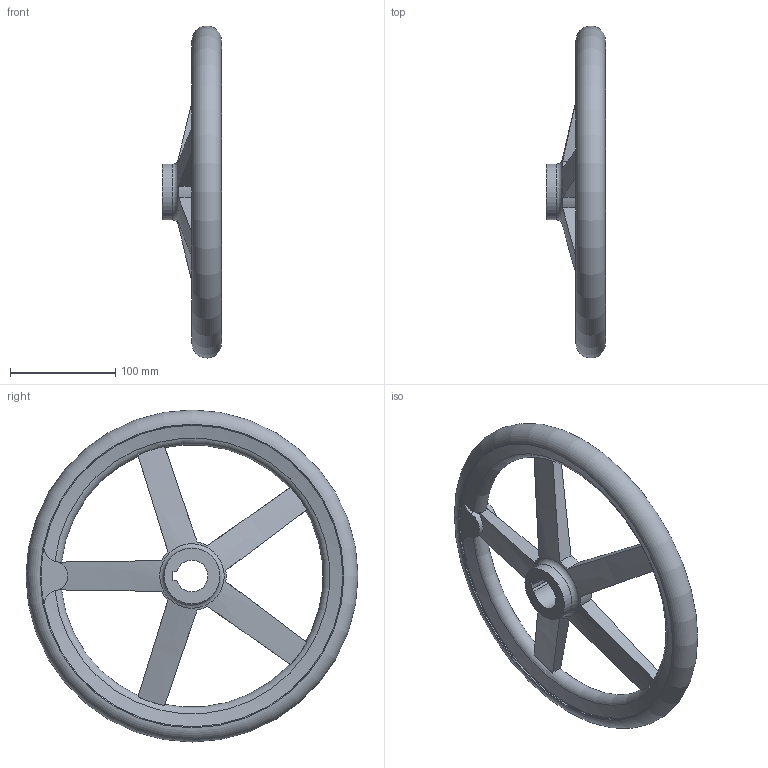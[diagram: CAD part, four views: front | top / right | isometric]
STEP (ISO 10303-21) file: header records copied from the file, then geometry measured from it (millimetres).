
FILE_DESCRIPTION( ( 'STEP AP203' ), '1' );
FILE_NAME( 'C:/Temp/Ganter_Step_05_03_2020/data/1_3/din_950/din_950_k/din_950_k_a/Handwheel DIN 950-GG-315-K30-A.stp', '2020-03-05T10:30:42', ( 'License CC BY-ND 4.0' ), ( 'CADENAS' ), ' ', 'PARTsolutions', ' ' );
FILE_SCHEMA( ( 'CONFIG_CONTROL_DESIGN' ) );
Length unit declared in the file: millimetre
Products named in the file (1): _Handwheel DIN 950-GG-315-K30-A
Bounding box: 56 x 314.99 x 314.99 mm (x, y, z)
Volume: 804958.6 mm3; surface area: 136420.6 mm2
Topology: 1 solids, 1 shells, 59 faces, 179 edges, 116 vertices
Faces by surface type: torus 20, cylinder 18, plane 17, cone 4
Full cylindrical faces by diameter (mm): 53 x2, 287 x2
Entity records: 2535 total; most frequent: CARTESIAN_POINT 1026, ORIENTED_EDGE 324, DIRECTION 274, EDGE_CURVE 162, AXIS2_PLACEMENT_3D 124, VERTEX_POINT 113, EDGE_LOOP 78, B_SPLINE_CURVE_WITH_KNOTS 72
